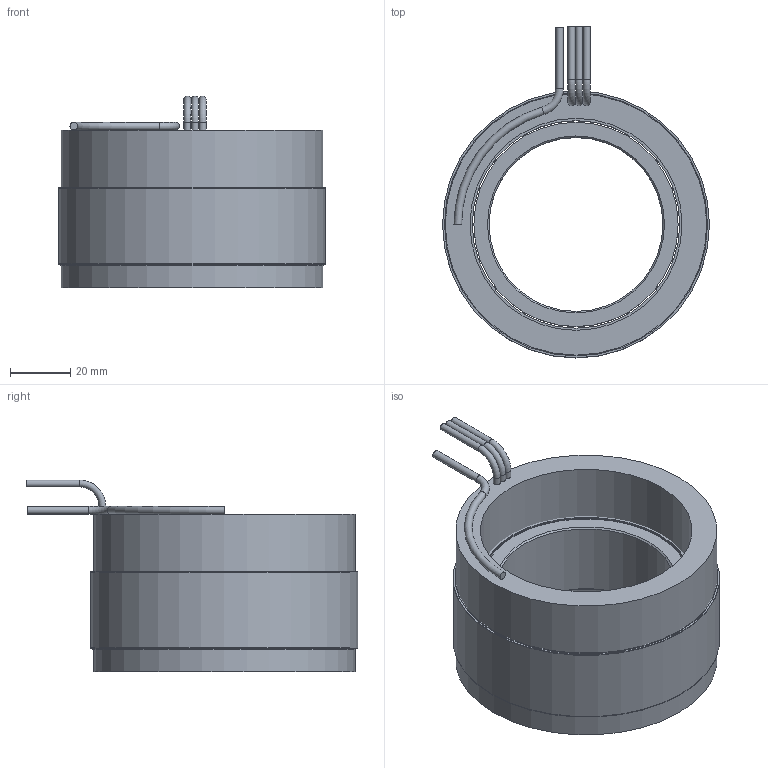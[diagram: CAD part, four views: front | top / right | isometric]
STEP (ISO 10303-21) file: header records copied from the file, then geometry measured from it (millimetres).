
FILE_DESCRIPTION (( 'STEP AP214' ), '1' );
FILE_NAME ('6100394-02.STEP', '2020-12-15T03:32:21', ( '' ), ( '' ), 'SwSTEP 2.0', 'SolidWorks 2016', '' );
FILE_SCHEMA (( 'AUTOMOTIVE_DESIGN' ));
Length unit declared in the file: inch
Products named in the file (10): 4600567-00; 4400103-00; 6100394-02; 4500560-XX_4500560-02; 4250382-XX_4250382-02; 4150180-XX_4150180-02; COMP4500560-XX(COIL)_COMP4500560-02(COIL); 4450191-XX_4450191-02
Assembly tree (10 placements, depth 4):
  6100394-02
    4500560-XX_4500560-02
      4450191-XX_4450191-02
        4450191-XX_4450191-02
        4400103-00
        4400103-00
        4600567-00  x2
      COMP4500560-XX(COIL)_COMP4500560-02(COIL)
    4250382-XX_4250382-02
      4150180-XX_4150180-02
Bounding box: 88.9 x 110.49 x 63.88 mm (x, y, z)
Volume: 197438 mm3; surface area: 80188.5 mm2
Topology: 8 solids, 8 shells, 47 faces, 74 edges, 46 vertices
Faces by surface type: cylinder 21, plane 19, torus 5, cone 2
Full cylindrical faces by diameter (mm): 2.286 x6, 2.54 x1, 57.912 x1, 68.072 x1, 69.088 x5, 70.612 x1, 87.122 x1, 87.63 x2, 88.9 x3
Entity records: 1305 total; most frequent: DIRECTION 202, CARTESIAN_POINT 143, AXIS2_PLACEMENT_3D 101, EDGE_LOOP 84, ORIENTED_EDGE 84, FACE_OUTER_BOUND 67, ADVANCED_FACE 43, EDGE_CURVE 42
